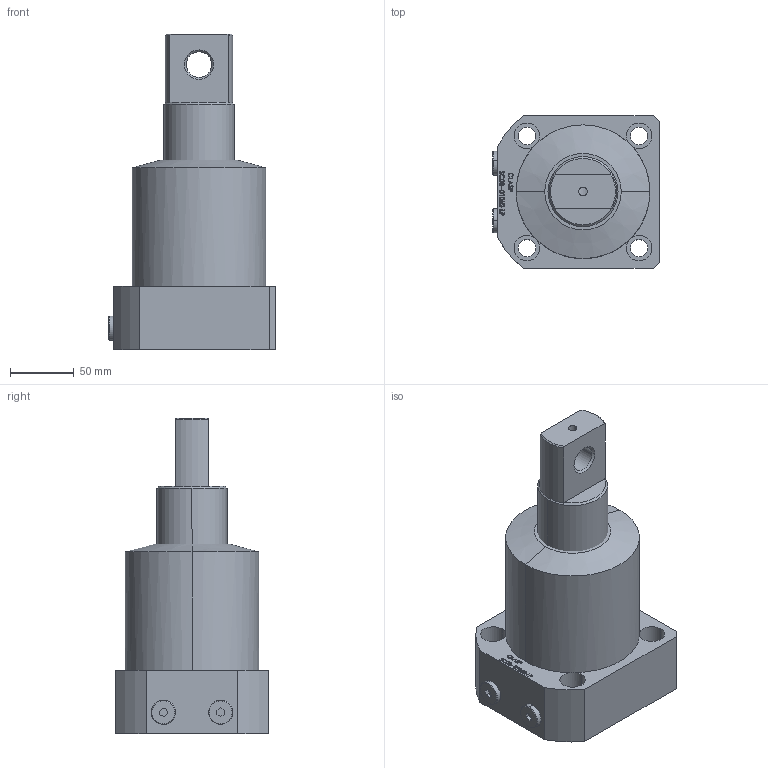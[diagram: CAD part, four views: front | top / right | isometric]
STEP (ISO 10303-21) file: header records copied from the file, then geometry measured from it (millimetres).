
FILE_DESCRIPTION (( 'STEP AP203' ), '1' );
FILE_NAME ('SC08-01052-LP.STEP', '2022-07-08T17:10:14', ( '' ), ( '' ), 'SwSTEP 2.0', 'SolidWorks 2017', '' );
FILE_SCHEMA (( 'CONFIG_CONTROL_DESIGN' ));
Length unit declared in the file: millimetre
Products named in the file (4): SC-08-01052-LP-Piston; SC-08-01052-LP BODY; SC-08-01052-LP-05 plug; SC08-01052-LP
Assembly tree (4 placements, depth 2):
  SC08-01052-LP
    SC-08-01052-LP BODY
    SC-08-01052-LP-Piston
    SC-08-01052-LP-05 plug  x2
Bounding box: 131 x 120 x 248 mm (x, y, z)
Volume: 1753662.3 mm3; surface area: 122890.7 mm2
Topology: 4 solids, 4 shells, 342 faces, 860 edges, 565 vertices
Faces by surface type: plane 154, bspline 118, cylinder 51, cone 19
Entity records: 17215 total; most frequent: CARTESIAN_POINT 9575, ORIENTED_EDGE 1656, DIRECTION 1143, EDGE_CURVE 828, VERTEX_POINT 545, VECTOR 453, LINE 453, EDGE_LOOP 377
